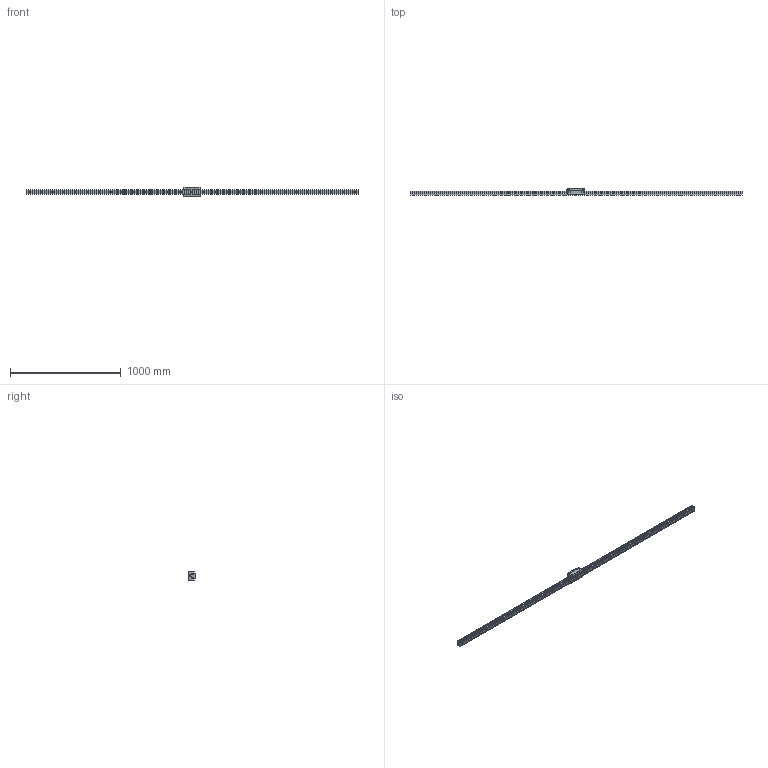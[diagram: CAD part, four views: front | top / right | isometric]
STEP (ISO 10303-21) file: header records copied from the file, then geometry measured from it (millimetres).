
FILE_DESCRIPTION(/* description */ ('STEP AP214'),/* implementation_level */ '2;1');
FILE_NAME(/* name */ 'HDR45V1SS-3000L_G30_0_B-PT18_1427-2_0_0_01',/* time_stamp */ '2023-06-30T13:01:21+02:00',/* author */ ('License CC BY-ND 4.0'),/* organization */ ('CADENAS'),/* preprocessor_version */ 'ST-DEVELOPER v19.3',/* originating_system */ 'PARTsolutions',/* authorisation */ ' ');
FILE_SCHEMA (('AUTOMOTIVE_DESIGN {1 0 10303 214 3 1 1}'));
Length unit declared in the file: millimetre
Products named in the file (4): HDR45V1SS-3000L_G30_0_B-PT18_1427-2_0_0_01; hsr_ftht_B-PT1/8_grease_nipple_joint; HDR45VSSB-PT1/81 Slider; HDR45V1300030 Rail
Assembly tree (3 placements, depth 2):
  HDR45V1SS-3000L_G30_0_B-PT18_1427-2_0_0_01
    hsr_ftht_B-PT1/8_grease_nipple_joint
    HDR45VSSB-PT1/81 Slider
    HDR45V1300030 Rail
Bounding box: 3000 x 60 x 86 mm (x, y, z)
Volume: 4595020.4 mm3; surface area: 637623.4 mm2
Topology: 3 solids, 3 shells, 304 faces, 742 edges, 483 vertices
Faces by surface type: plane 160, cylinder 115, cone 24, torus 3, sphere 2
Full cylindrical faces by diameter (mm): 5.2 x4, 8.376 x6, 9.6 x1, 10.2 x2, 12.5 x2, 14 x29, 20 x29
Entity records: 8620 total; most frequent: CARTESIAN_POINT 1537, DIRECTION 1470, ORIENTED_EDGE 1250, EDGE_CURVE 625, AXIS2_PLACEMENT_3D 564, FACE_BOUND 511, EDGE_LOOP 503, VERTEX_POINT 476
